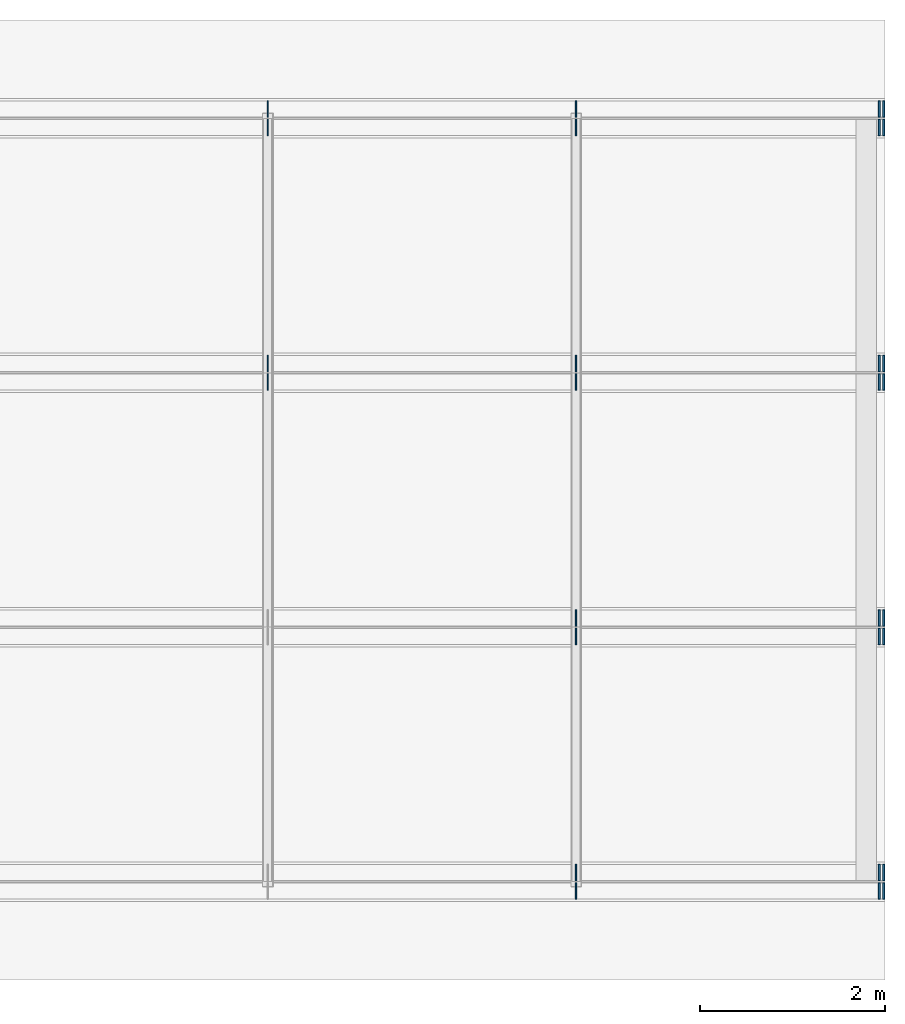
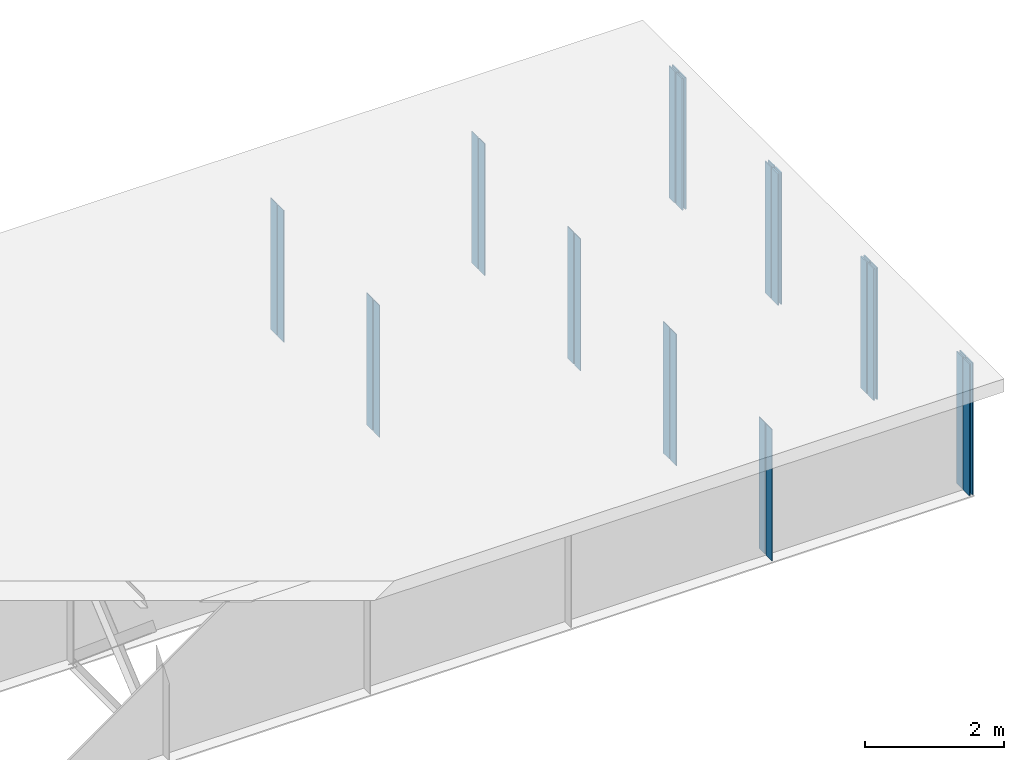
# One storey, part 13 of 13: 28 plates.
"""IFC4 building model written with IfcOpenShell, lengths in metres."""

from ifc_helpers import new_model, si_unit, frame, origin, origin_with_axes, origin_2d_with_axis, place, context, subcontext, project, spatial, rectangle, extrude, element, save


model = new_model("IFC4")

# Units and contexts
model_context = context("Model", 3, precision=1e-05, world=origin())
body_context = subcontext(model_context, "Body", "Model", "MODEL_VIEW")
ifc_project = project(units=[si_unit("LENGTHUNIT", "METRE"), si_unit("AREAUNIT", "SQUARE_METRE"), si_unit("VOLUMEUNIT", "CUBIC_METRE"), si_unit("PLANEANGLEUNIT", "RADIAN")], contexts=[model_context])

# Site, building, storey
site_placement = place(None, origin_with_axes())
site = spatial("IfcSite", under=ifc_project, at=site_placement, Name="Default Site")
building_placement = place(site_placement, origin_with_axes())
building = spatial("IfcBuilding", under=site, at=building_placement, Name="Bridge Structure")
storey_placement = place(building_placement, origin_with_axes())
storey = spatial("IfcBuildingStorey", under=building, at=storey_placement, Name="Superstructure")

# Plates
for number, where, z_axis, x_axis, name in (
    (1, (36.663000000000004, -4.02625, -1.155), (0.0, 0.0, 1.0), (1.0, 0.0, 0.0), "Intermediate Stiffener 1"),
    (2, (36.663000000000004, -4.22375, -1.155), (0.0, 0.0, 1.0), (1.0, 0.0, 0.0), "Intermediate Stiffener 1"),
):
    element("IfcPlate", number, at=place(storey_placement, frame(where, z_axis=z_axis, x_axis=x_axis)), inside=storey, Name=name, context=body_context, shape_type="SweptSolid", body=[
        extrude(rectangle(XDim=0.012, YDim=0.1775, at=origin_2d_with_axis()), origin_with_axes(), (0.0, 0.0, 1.0), 2.31),
    ])
for number, where, z_axis, x_axis, name in (
    (3, (39.99, -4.02625, -1.155), (0.0, 0.0, 1.0), (1.0, 0.0, 0.0), "End Stiffener 1"),
    (4, (39.99, -4.22375, -1.155), (0.0, 0.0, 1.0), (1.0, 0.0, 0.0), "End Stiffener 1"),
    (5, (39.94, -4.02625, -1.155), (0.0, 0.0, 1.0), (1.0, 0.0, 0.0), "End Stiffener 1"),
    (6, (39.94, -4.22375, -1.155), (0.0, 0.0, 1.0), (1.0, 0.0, 0.0), "End Stiffener 1"),
):
    element("IfcPlate", number, at=place(storey_placement, frame(where, z_axis=z_axis, x_axis=x_axis)), inside=storey, Name=name, context=body_context, shape_type="SweptSolid", body=[
        extrude(rectangle(XDim=0.02, YDim=0.1775, at=origin_2d_with_axis()), origin_with_axes(), (0.0, 0.0, 1.0), 2.31),
    ])
for number, where, z_axis, x_axis, name in (
    (7, (36.663000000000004, -1.27625, -1.155), (0.0, 0.0, 1.0), (1.0, 0.0, 0.0), "Intermediate Stiffener 2"),
    (8, (36.663000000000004, -1.4737500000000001, -1.155), (0.0, 0.0, 1.0), (1.0, 0.0, 0.0), "Intermediate Stiffener 2"),
):
    element("IfcPlate", number, at=place(storey_placement, frame(where, z_axis=z_axis, x_axis=x_axis)), inside=storey, Name=name, context=body_context, shape_type="SweptSolid", body=[
        extrude(rectangle(XDim=0.012, YDim=0.1775, at=origin_2d_with_axis()), origin_with_axes(), (0.0, 0.0, 1.0), 2.31),
    ])
for number, where, z_axis, x_axis, name in (
    (9, (39.99, -1.27625, -1.155), (0.0, 0.0, 1.0), (1.0, 0.0, 0.0), "End Stiffener 2"),
    (10, (39.99, -1.4737500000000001, -1.155), (0.0, 0.0, 1.0), (1.0, 0.0, 0.0), "End Stiffener 2"),
    (11, (39.94, -1.27625, -1.155), (0.0, 0.0, 1.0), (1.0, 0.0, 0.0), "End Stiffener 2"),
    (12, (39.94, -1.4737500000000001, -1.155), (0.0, 0.0, 1.0), (1.0, 0.0, 0.0), "End Stiffener 2"),
):
    element("IfcPlate", number, at=place(storey_placement, frame(where, z_axis=z_axis, x_axis=x_axis)), inside=storey, Name=name, context=body_context, shape_type="SweptSolid", body=[
        extrude(rectangle(XDim=0.02, YDim=0.1775, at=origin_2d_with_axis()), origin_with_axes(), (0.0, 0.0, 1.0), 2.31),
    ])
for number, where, z_axis, x_axis, name in (
    (13, (33.33, 1.4737500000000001, -1.155), (0.0, 0.0, 1.0), (1.0, 0.0, 0.0), "Intermediate Stiffener 3"),
    (14, (33.33, 1.27625, -1.155), (0.0, 0.0, 1.0), (1.0, 0.0, 0.0), "Intermediate Stiffener 3"),
    (15, (36.663000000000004, 1.4737500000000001, -1.155), (0.0, 0.0, 1.0), (1.0, 0.0, 0.0), "Intermediate Stiffener 3"),
    (16, (36.663000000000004, 1.27625, -1.155), (0.0, 0.0, 1.0), (1.0, 0.0, 0.0), "Intermediate Stiffener 3"),
):
    element("IfcPlate", number, at=place(storey_placement, frame(where, z_axis=z_axis, x_axis=x_axis)), inside=storey, Name=name, context=body_context, shape_type="SweptSolid", body=[
        extrude(rectangle(XDim=0.012, YDim=0.1775, at=origin_2d_with_axis()), origin_with_axes(), (0.0, 0.0, 1.0), 2.31),
    ])
for number, where, z_axis, x_axis, name in (
    (17, (39.99, 1.4737500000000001, -1.155), (0.0, 0.0, 1.0), (1.0, 0.0, 0.0), "End Stiffener 3"),
    (18, (39.99, 1.27625, -1.155), (0.0, 0.0, 1.0), (1.0, 0.0, 0.0), "End Stiffener 3"),
    (19, (39.94, 1.4737500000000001, -1.155), (0.0, 0.0, 1.0), (1.0, 0.0, 0.0), "End Stiffener 3"),
    (20, (39.94, 1.27625, -1.155), (0.0, 0.0, 1.0), (1.0, 0.0, 0.0), "End Stiffener 3"),
):
    element("IfcPlate", number, at=place(storey_placement, frame(where, z_axis=z_axis, x_axis=x_axis)), inside=storey, Name=name, context=body_context, shape_type="SweptSolid", body=[
        extrude(rectangle(XDim=0.02, YDim=0.1775, at=origin_2d_with_axis()), origin_with_axes(), (0.0, 0.0, 1.0), 2.31),
    ])
for number, where, z_axis, x_axis, name in (
    (21, (33.33, 4.22375, -1.155), (0.0, 0.0, 1.0), (1.0, 0.0, 0.0), "Intermediate Stiffener 4"),
    (22, (33.33, 4.02625, -1.155), (0.0, 0.0, 1.0), (1.0, 0.0, 0.0), "Intermediate Stiffener 4"),
    (23, (36.663000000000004, 4.22375, -1.155), (0.0, 0.0, 1.0), (1.0, 0.0, 0.0), "Intermediate Stiffener 4"),
    (24, (36.663000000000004, 4.02625, -1.155), (0.0, 0.0, 1.0), (1.0, 0.0, 0.0), "Intermediate Stiffener 4"),
):
    element("IfcPlate", number, at=place(storey_placement, frame(where, z_axis=z_axis, x_axis=x_axis)), inside=storey, Name=name, context=body_context, shape_type="SweptSolid", body=[
        extrude(rectangle(XDim=0.012, YDim=0.1775, at=origin_2d_with_axis()), origin_with_axes(), (0.0, 0.0, 1.0), 2.31),
    ])
for number, where, z_axis, x_axis, name in (
    (25, (39.99, 4.22375, -1.155), (0.0, 0.0, 1.0), (1.0, 0.0, 0.0), "End Stiffener 4"),
    (26, (39.99, 4.02625, -1.155), (0.0, 0.0, 1.0), (1.0, 0.0, 0.0), "End Stiffener 4"),
    (27, (39.94, 4.22375, -1.155), (0.0, 0.0, 1.0), (1.0, 0.0, 0.0), "End Stiffener 4"),
    (28, (39.94, 4.02625, -1.155), (0.0, 0.0, 1.0), (1.0, 0.0, 0.0), "End Stiffener 4"),
):
    element("IfcPlate", number, at=place(storey_placement, frame(where, z_axis=z_axis, x_axis=x_axis)), inside=storey, Name=name, context=body_context, shape_type="SweptSolid", body=[
        extrude(rectangle(XDim=0.02, YDim=0.1775, at=origin_2d_with_axis()), origin_with_axes(), (0.0, 0.0, 1.0), 2.31),
    ])

save(model, "model.ifc")
